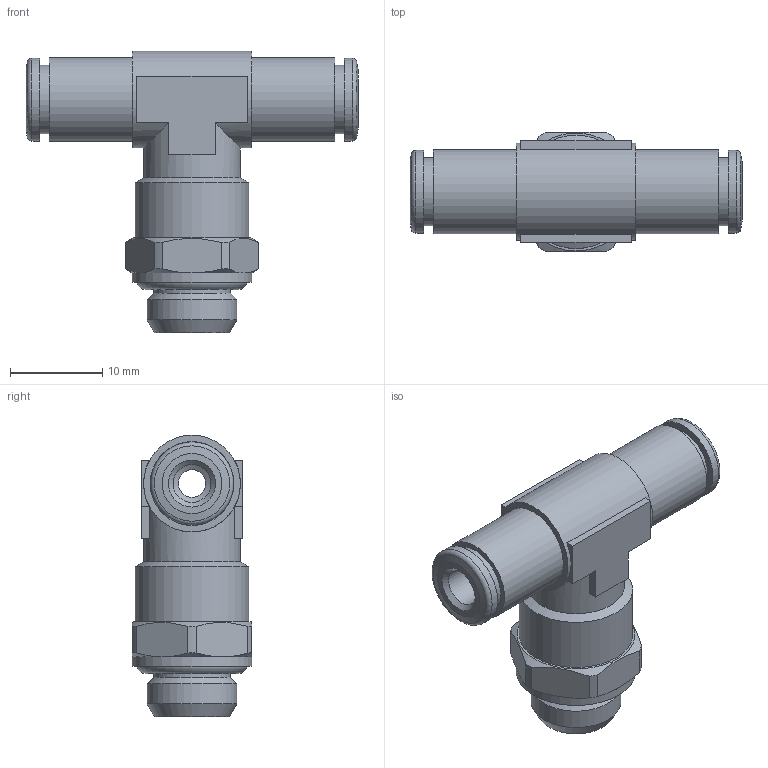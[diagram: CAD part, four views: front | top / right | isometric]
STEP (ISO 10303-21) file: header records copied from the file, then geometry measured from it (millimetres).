
FILE_DESCRIPTION(/* description */ (''),/* implementation_level */ '2;1');
FILE_NAME(/* name */ '202001-ES-I_STX020_4_G18_29.06.16',/* time_stamp */ '2016-06-29T12:30:24+02:00',/* author */ (''),/* organization */ (''),/* preprocessor_version */ 'ST-DEVELOPER v16.5',/* originating_system */ 'HiCAD 2016 2101.0 Build 254',/* authorisation */ '');
FILE_SCHEMA (('AUTOMOTIVE_DESIGN { 1 0 10303 214 1 1 1 1 }'));
Length unit declared in the file: millimetre
Products named in the file (6): Root; OR 7.2X1.9; 214602-ES-N2; R202001-ES-i; DR4-1_NEU
Assembly tree (5 placements, depth 2):
  Root
    OR 7.2X1.9
    214602-ES-N2
    R202001-ES-i
    DR4-1_NEU
    DR4-1_NEU
Bounding box: 36 x 13 x 30.55 mm (x, y, z)
Volume: 3501.6 mm3; surface area: 4467.8 mm2
Topology: 5 solids, 5 shells, 119 faces, 259 edges, 159 vertices
Faces by surface type: plane 44, cylinder 36, cone 34, torus 5
Full cylindrical faces by diameter (mm): 3 x1, 4 x1, 4.1 x4, 5.5 x1, 6 x1, 6.4 x2, 7.3 x2, 7.4 x2, 7.6 x2, 8.3 x1, 9 x4, 9.1 x2, 9.728 x1, 10.1 x2, 10.5 x2, 12.3 x1, 13 x1
Entity records: 5531 total; most frequent: CARTESIAN_POINT 1210, DIRECTION 560, PRESENTATION_STYLE_ASSIGNMENT 371, COLOUR_RGB 369, DRAUGHTING_PRE_DEFINED_CURVE_FONT 366, CURVE_STYLE 366, OVER_RIDING_STYLED_ITEM 366, ORIENTED_EDGE 366
